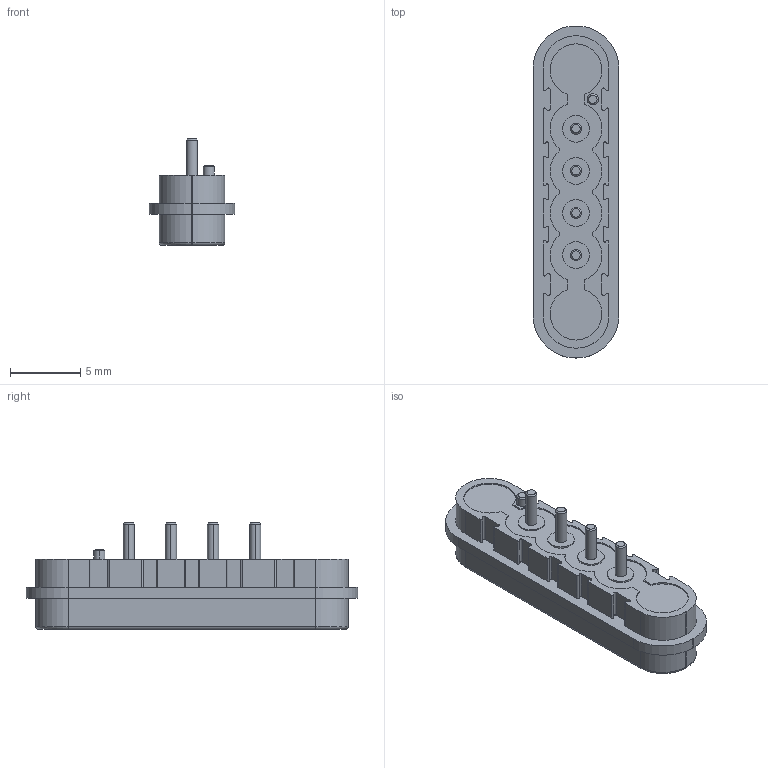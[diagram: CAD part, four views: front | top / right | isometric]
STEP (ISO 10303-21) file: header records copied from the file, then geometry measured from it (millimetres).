
FILE_DESCRIPTION((''),'2;1');
FILE_NAME('303D-L236F041_C_1','2026-01-09T',('fros.liao'),(''),'CREO PARAMETRIC BY PTC INC, 2018360','CREO PARAMETRIC BY PTC INC, 2018360','');
FILE_SCHEMA(('CONFIG_CONTROL_DESIGN'));
Length unit declared in the file: millimetre
Products named in the file (1): 303D-L236F041_C_1
Bounding box: 6.1 x 23.65 x 7.6 mm (x, y, z)
Volume: 513.4 mm3; surface area: 872.3 mm2
Topology: 1 solids, 7 shells, 262 faces, 788 edges, 560 vertices
Faces by surface type: cylinder 138, plane 90, cone 26, torus 8
Entity records: 9380 total; most frequent: CARTESIAN_POINT 1884, DIRECTION 1632, ORIENTED_EDGE 1576, EDGE_CURVE 788, AXIS2_PLACEMENT_3D 650, VERTEX_POINT 560, CIRCLE 388, VECTOR 332
